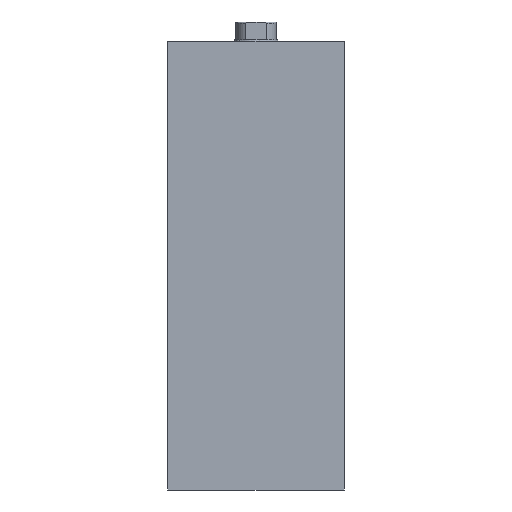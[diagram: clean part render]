
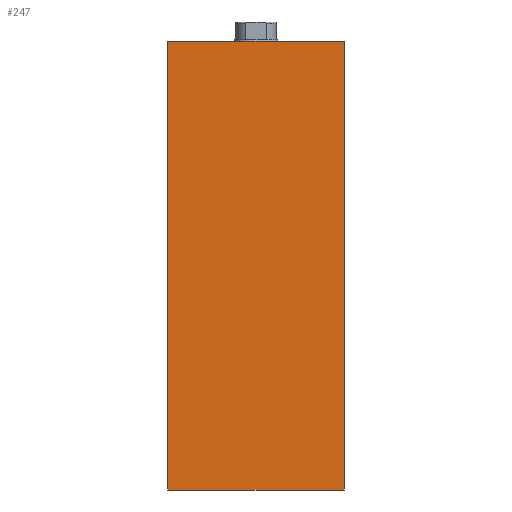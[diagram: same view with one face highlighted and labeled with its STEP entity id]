
A CAD part, left-side view. The second image highlights one B-rep face of the part: STEP entity #247.
In plain terms, the highlighted planar face has unit normal (-1, 0, 0) as drawn and (0, 0, -1) by its records, which use the part's own axes.
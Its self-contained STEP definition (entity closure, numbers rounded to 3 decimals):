
#247 = ADVANCED_FACE( '', ( #328 ), #329, .F. );
#328 = FACE_OUTER_BOUND( '', #524, .T. );
#329 = PLANE( '', #525 );
#524 = EDGE_LOOP( '', ( #739, #740, #741, #742 ) );
#525 = AXIS2_PLACEMENT_3D( '', #743, #744, #745 );
#739 = ORIENTED_EDGE( '', *, *, #1081, .T. );
#740 = ORIENTED_EDGE( '', *, *, #1097, .F. );
#741 = ORIENTED_EDGE( '', *, *, #1092, .F. );
#742 = ORIENTED_EDGE( '', *, *, #1096, .T. );
#743 = CARTESIAN_POINT( '', ( 165., -32.5, -22.5 ) );
#744 = DIRECTION( '', ( 0., 0., 1. ) );
#745 = DIRECTION( '', ( 1., 0., 0. ) );
#1081 = EDGE_CURVE( '', #1175, #1173, #1176, .T. );
#1092 = EDGE_CURVE( '', #1193, #1195, #1196, .T. );
#1096 = EDGE_CURVE( '', #1193, #1175, #1202, .T. );
#1097 = EDGE_CURVE( '', #1195, #1173, #1203, .T. );
#1173 = VERTEX_POINT( '', #1406 );
#1175 = VERTEX_POINT( '', #1409 );
#1176 = LINE( '', #1410, #1411 );
#1193 = VERTEX_POINT( '', #1600 );
#1195 = VERTEX_POINT( '', #1603 );
#1196 = LINE( '', #1604, #1605 );
#1202 = B_SPLINE_CURVE_WITH_KNOTS( '', 1, ( #1678, #1679 ), .UNSPECIFIED., .F., .F., ( 2, 2 ), ( 0., 1. ), .UNSPECIFIED. );
#1203 = B_SPLINE_CURVE_WITH_KNOTS( '', 1, ( #1680, #1681 ), .UNSPECIFIED., .F., .F., ( 2, 2 ), ( 0., 1. ), .UNSPECIFIED. );
#1406 = CARTESIAN_POINT( '', ( 0., 32.5, -22.5 ) );
#1409 = CARTESIAN_POINT( '', ( 0., -32.5, -22.5 ) );
#1410 = CARTESIAN_POINT( '', ( 0., -32.5, -22.5 ) );
#1411 = VECTOR( '', #3655, 1000. );
#1600 = CARTESIAN_POINT( '', ( 165., -32.5, -22.5 ) );
#1603 = CARTESIAN_POINT( '', ( 165., 32.5, -22.5 ) );
#1604 = CARTESIAN_POINT( '', ( 165., -32.5, -22.5 ) );
#1605 = VECTOR( '', #3659, 1000. );
#1678 = CARTESIAN_POINT( '', ( 165., -32.5, -22.5 ) );
#1679 = CARTESIAN_POINT( '', ( 0., -32.5, -22.5 ) );
#1680 = CARTESIAN_POINT( '', ( 165., 32.5, -22.5 ) );
#1681 = CARTESIAN_POINT( '', ( 0., 32.5, -22.5 ) );
#3655 = DIRECTION( '', ( 0., 1., 0. ) );
#3659 = DIRECTION( '', ( 0., 1., 0. ) );
